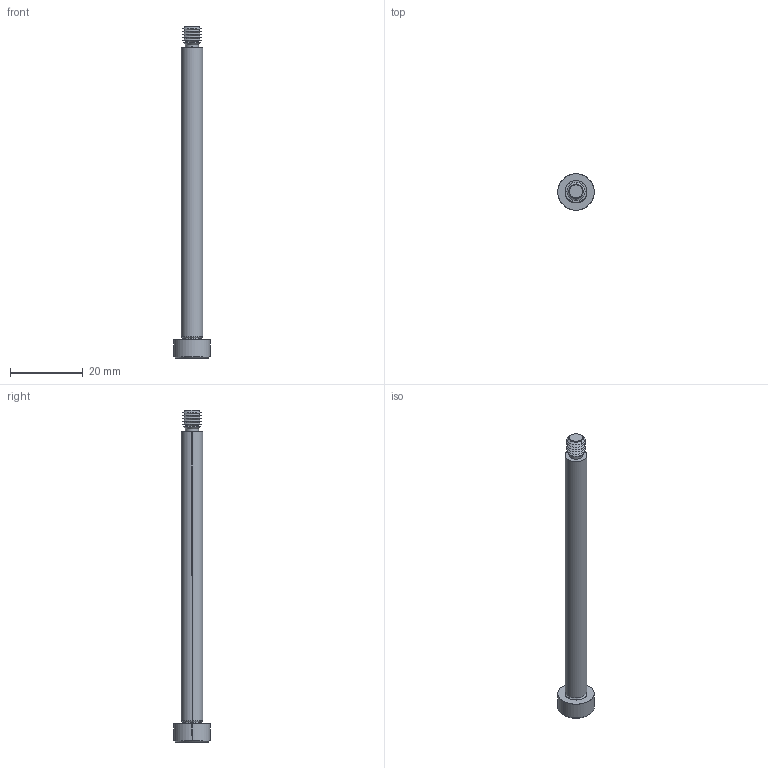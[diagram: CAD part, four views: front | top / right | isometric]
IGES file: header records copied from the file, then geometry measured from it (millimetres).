
Start section: SolidWorks IGES file using analytic representation for surfaces
Global section: file name: C:\Users\IanO\Documents\Temp Folder\GENERAL\SCREW REVISION\P0130_v2\P0130.T5_v2_20220106_IGES\P0130.060-080-T5.igs; native system: SolidWorks 2019; preprocessor: SolidWorks 2019; author: IanO; date: 220106.222845; units: millimetre
Bounding box: 10 x 10 x 91 mm (x, y, z)
Surface area: 1995.5 mm2 (no closed solid volume)
Topology: 0 solids, 0 shells, 64 faces, 504 edges, 502 vertices
Faces by surface type: revolution 44, bspline 20
